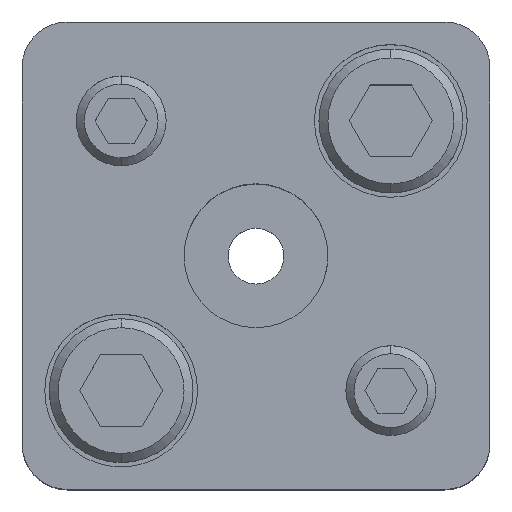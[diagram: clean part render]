
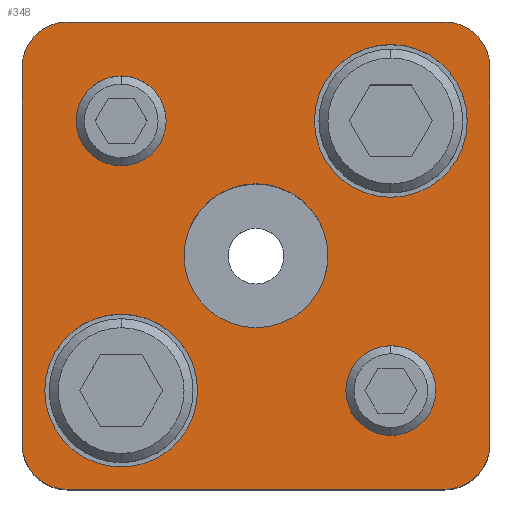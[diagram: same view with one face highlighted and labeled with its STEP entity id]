
A CAD part, top view. The second image highlights one B-rep face of the part: STEP entity #348.
In plain terms, the highlighted planar face has unit normal (0, 0, 1).
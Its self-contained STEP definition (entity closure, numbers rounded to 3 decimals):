
#173=PLANE('',#2995);
#248=FACE_BOUND('',#745,.T.);
#249=FACE_BOUND('',#746,.T.);
#250=FACE_BOUND('',#747,.T.);
#251=FACE_BOUND('',#748,.T.);
#252=FACE_BOUND('',#749,.T.);
#253=FACE_BOUND('',#750,.T.);
#348=ADVANCED_FACE('',(#248,#249,#250,#251,#252,#253),#173,.T.);
#745=EDGE_LOOP('',(#1597,#1598,#1599,#1600,#1601,#1602,#1603,#1604));
#746=EDGE_LOOP('',(#1605,#1606));
#747=EDGE_LOOP('',(#1607,#1608));
#748=EDGE_LOOP('',(#1609,#1610));
#749=EDGE_LOOP('',(#1611,#1612));
#750=EDGE_LOOP('',(#1613,#1614));
#934=LINE('',#4430,#1142);
#935=LINE('',#4434,#1143);
#936=LINE('',#4438,#1144);
#937=LINE('',#4442,#1145);
#1142=VECTOR('',#3559,1.);
#1143=VECTOR('',#3562,1.);
#1144=VECTOR('',#3565,1.);
#1145=VECTOR('',#3568,1.);
#1597=ORIENTED_EDGE('',*,*,#2454,.T.);
#1598=ORIENTED_EDGE('',*,*,#2455,.T.);
#1599=ORIENTED_EDGE('',*,*,#2456,.T.);
#1600=ORIENTED_EDGE('',*,*,#2457,.T.);
#1601=ORIENTED_EDGE('',*,*,#2458,.T.);
#1602=ORIENTED_EDGE('',*,*,#2459,.T.);
#1603=ORIENTED_EDGE('',*,*,#2460,.T.);
#1604=ORIENTED_EDGE('',*,*,#2461,.T.);
#1605=ORIENTED_EDGE('',*,*,#2462,.F.);
#1606=ORIENTED_EDGE('',*,*,#2463,.F.);
#1607=ORIENTED_EDGE('',*,*,#2464,.F.);
#1608=ORIENTED_EDGE('',*,*,#2465,.F.);
#1609=ORIENTED_EDGE('',*,*,#2440,.F.);
#1610=ORIENTED_EDGE('',*,*,#2436,.F.);
#1611=ORIENTED_EDGE('',*,*,#2434,.F.);
#1612=ORIENTED_EDGE('',*,*,#2430,.F.);
#1613=ORIENTED_EDGE('',*,*,#2466,.T.);
#1614=ORIENTED_EDGE('',*,*,#2467,.T.);
#2135=VERTEX_POINT('',#4378);
#2136=VERTEX_POINT('',#4379);
#2139=VERTEX_POINT('',#4391);
#2140=VERTEX_POINT('',#4392);
#2151=VERTEX_POINT('',#4428);
#2152=VERTEX_POINT('',#4429);
#2153=VERTEX_POINT('',#4431);
#2154=VERTEX_POINT('',#4433);
#2155=VERTEX_POINT('',#4435);
#2156=VERTEX_POINT('',#4437);
#2157=VERTEX_POINT('',#4439);
#2158=VERTEX_POINT('',#4441);
#2159=VERTEX_POINT('',#4444);
#2160=VERTEX_POINT('',#4445);
#2161=VERTEX_POINT('',#4448);
#2162=VERTEX_POINT('',#4449);
#2163=VERTEX_POINT('',#4452);
#2164=VERTEX_POINT('',#4453);
#2430=EDGE_CURVE('',#2135,#2136,#2735,.T.);
#2434=EDGE_CURVE('',#2136,#2135,#2737,.T.);
#2436=EDGE_CURVE('',#2139,#2140,#2739,.T.);
#2440=EDGE_CURVE('',#2140,#2139,#2741,.T.);
#2454=EDGE_CURVE('',#2151,#2152,#2751,.T.);
#2455=EDGE_CURVE('',#2152,#2153,#934,.T.);
#2456=EDGE_CURVE('',#2153,#2154,#2752,.T.);
#2457=EDGE_CURVE('',#2154,#2155,#935,.T.);
#2458=EDGE_CURVE('',#2155,#2156,#2753,.T.);
#2459=EDGE_CURVE('',#2156,#2157,#936,.T.);
#2460=EDGE_CURVE('',#2157,#2158,#2754,.T.);
#2461=EDGE_CURVE('',#2158,#2151,#937,.T.);
#2462=EDGE_CURVE('',#2159,#2160,#2755,.T.);
#2463=EDGE_CURVE('',#2160,#2159,#2756,.T.);
#2464=EDGE_CURVE('',#2161,#2162,#2757,.T.);
#2465=EDGE_CURVE('',#2162,#2161,#2758,.T.);
#2466=EDGE_CURVE('',#2163,#2164,#2759,.T.);
#2467=EDGE_CURVE('',#2164,#2163,#2760,.T.);
#2735=CIRCLE('',#2959,5.);
#2737=CIRCLE('',#2962,5.);
#2739=CIRCLE('',#2966,5.);
#2741=CIRCLE('',#2969,5.);
#2751=CIRCLE('',#2985,5.);
#2752=CIRCLE('',#2986,5.);
#2753=CIRCLE('',#2987,5.);
#2754=CIRCLE('',#2988,5.);
#2755=CIRCLE('',#2989,8.5);
#2756=CIRCLE('',#2990,8.5);
#2757=CIRCLE('',#2991,8.5);
#2758=CIRCLE('',#2992,8.5);
#2759=CIRCLE('',#2993,8.);
#2760=CIRCLE('',#2994,8.);
#2959=AXIS2_PLACEMENT_3D('',#4377,#3497,#3498);
#2962=AXIS2_PLACEMENT_3D('',#4386,#3505,#3506);
#2966=AXIS2_PLACEMENT_3D('',#4390,#3513,#3514);
#2969=AXIS2_PLACEMENT_3D('',#4399,#3521,#3522);
#2985=AXIS2_PLACEMENT_3D('',#4427,#3557,#3558);
#2986=AXIS2_PLACEMENT_3D('',#4432,#3560,#3561);
#2987=AXIS2_PLACEMENT_3D('',#4436,#3563,#3564);
#2988=AXIS2_PLACEMENT_3D('',#4440,#3566,#3567);
#2989=AXIS2_PLACEMENT_3D('',#4443,#3569,#3570);
#2990=AXIS2_PLACEMENT_3D('',#4446,#3571,#3572);
#2991=AXIS2_PLACEMENT_3D('',#4447,#3573,#3574);
#2992=AXIS2_PLACEMENT_3D('',#4450,#3575,#3576);
#2993=AXIS2_PLACEMENT_3D('',#4451,#3577,#3578);
#2994=AXIS2_PLACEMENT_3D('',#4454,#3579,#3580);
#2995=AXIS2_PLACEMENT_3D('',#4455,#3581,#3582);
#3497=DIRECTION('',(0.,0.,1.));
#3498=DIRECTION('',(-1.,0.,0.));
#3505=DIRECTION('',(0.,0.,1.));
#3506=DIRECTION('',(1.,0.,0.));
#3513=DIRECTION('',(0.,0.,1.));
#3514=DIRECTION('',(-1.,0.,0.));
#3521=DIRECTION('',(0.,0.,1.));
#3522=DIRECTION('',(1.,0.,0.));
#3557=DIRECTION('',(0.,0.,1.));
#3558=DIRECTION('',(-0.707,0.707,0.));
#3559=DIRECTION('',(0.,1.,0.));
#3560=DIRECTION('',(0.,0.,1.));
#3561=DIRECTION('',(-0.707,-0.707,0.));
#3562=DIRECTION('',(-1.,0.,0.));
#3563=DIRECTION('',(0.,0.,1.));
#3564=DIRECTION('',(0.707,-0.707,0.));
#3565=DIRECTION('',(0.,-1.,0.));
#3566=DIRECTION('',(0.,0.,1.));
#3567=DIRECTION('',(0.707,0.707,0.));
#3568=DIRECTION('',(1.,0.,0.));
#3569=DIRECTION('',(0.,0.,1.));
#3570=DIRECTION('',(1.,0.,0.));
#3571=DIRECTION('',(0.,0.,1.));
#3572=DIRECTION('',(-1.,0.,0.));
#3573=DIRECTION('',(0.,0.,1.));
#3574=DIRECTION('',(1.,0.,0.));
#3575=DIRECTION('',(0.,0.,1.));
#3576=DIRECTION('',(-1.,0.,0.));
#3577=DIRECTION('',(0.,0.,-1.));
#3578=DIRECTION('',(-1.,0.,0.));
#3579=DIRECTION('',(0.,0.,-1.));
#3580=DIRECTION('',(1.,0.,0.));
#3581=DIRECTION('',(0.,0.,1.));
#3582=DIRECTION('',(-1.,0.,0.));
#4377=CARTESIAN_POINT('',(15.,-15.,35.));
#4378=CARTESIAN_POINT('',(15.,-20.,35.));
#4379=CARTESIAN_POINT('',(15.,-10.,35.));
#4386=CARTESIAN_POINT('',(15.,-15.,35.));
#4390=CARTESIAN_POINT('',(-15.,15.,35.));
#4391=CARTESIAN_POINT('',(-15.,10.,35.));
#4392=CARTESIAN_POINT('',(-15.,20.,35.));
#4399=CARTESIAN_POINT('',(-15.,15.,35.));
#4427=CARTESIAN_POINT('',(21.,-21.,35.));
#4428=CARTESIAN_POINT('',(21.,-26.,35.));
#4429=CARTESIAN_POINT('',(26.,-21.,35.));
#4430=CARTESIAN_POINT('',(26.,21.,35.));
#4431=CARTESIAN_POINT('',(26.,21.,35.));
#4432=CARTESIAN_POINT('',(21.,21.,35.));
#4433=CARTESIAN_POINT('',(21.,26.,35.));
#4434=CARTESIAN_POINT('',(-21.,26.,35.));
#4435=CARTESIAN_POINT('',(-21.,26.,35.));
#4436=CARTESIAN_POINT('',(-21.,21.,35.));
#4437=CARTESIAN_POINT('',(-26.,21.,35.));
#4438=CARTESIAN_POINT('',(-26.,21.,35.));
#4439=CARTESIAN_POINT('',(-26.,-21.,35.));
#4440=CARTESIAN_POINT('',(-21.,-21.,35.));
#4441=CARTESIAN_POINT('',(-21.,-26.,35.));
#4442=CARTESIAN_POINT('',(-21.,-26.,35.));
#4443=CARTESIAN_POINT('',(15.,15.,35.));
#4444=CARTESIAN_POINT('',(15.,23.5,35.));
#4445=CARTESIAN_POINT('',(15.,6.5,35.));
#4446=CARTESIAN_POINT('',(15.,15.,35.));
#4447=CARTESIAN_POINT('',(-15.,-15.,35.));
#4448=CARTESIAN_POINT('',(-15.,-6.5,35.));
#4449=CARTESIAN_POINT('',(-15.,-23.5,35.));
#4450=CARTESIAN_POINT('',(-15.,-15.,35.));
#4451=CARTESIAN_POINT('',(0.,0.,35.));
#4452=CARTESIAN_POINT('',(0.,8.,35.));
#4453=CARTESIAN_POINT('',(0.,-8.,35.));
#4454=CARTESIAN_POINT('',(0.,0.,35.));
#4455=CARTESIAN_POINT('',(21.,-26.,35.));
